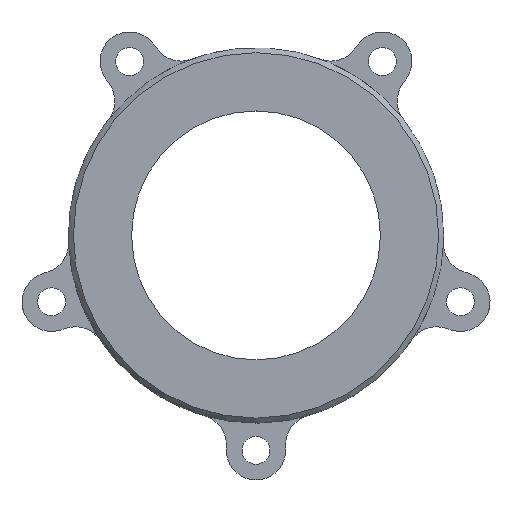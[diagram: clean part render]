
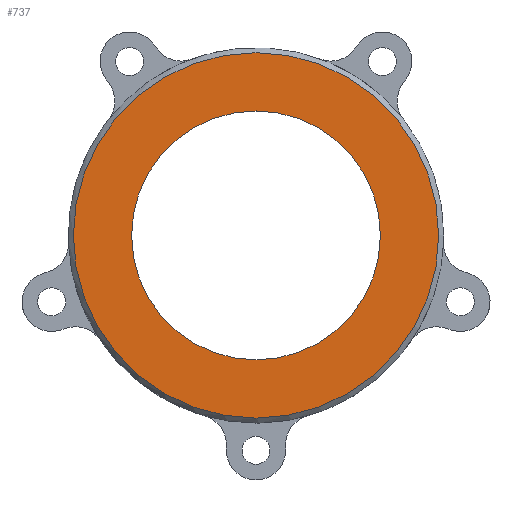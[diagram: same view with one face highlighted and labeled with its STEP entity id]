
A CAD part, top view. The second image highlights one B-rep face of the part: STEP entity #737.
In plain terms, the highlighted planar face has unit normal (0, 0, 1).
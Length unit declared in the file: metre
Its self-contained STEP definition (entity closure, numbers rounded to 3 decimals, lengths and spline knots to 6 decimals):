
#15=PLANE('',#827);
#194=ORIENTED_EDGE('',*,*,#398,.T.);
#195=ORIENTED_EDGE('',*,*,#397,.F.);
#397=EDGE_CURVE('',#498,#498,#559,.T.);
#398=EDGE_CURVE('',#499,#499,#560,.T.);
#498=VERTEX_POINT('',#1243);
#499=VERTEX_POINT('',#1246);
#559=CIRCLE('',#826,0.020001);
#560=CIRCLE('',#828,0.029369);
#596=EDGE_LOOP('',(#194));
#597=EDGE_LOOP('',(#195));
#660=FACE_BOUND('',#596,.T.);
#661=FACE_BOUND('',#597,.T.);
#737=ADVANCED_FACE('',(#660,#661),#15,.T.);
#826=AXIS2_PLACEMENT_3D('',#1242,#985,#986);
#827=AXIS2_PLACEMENT_3D('',#1244,#987,#988);
#828=AXIS2_PLACEMENT_3D('',#1245,#989,#990);
#985=DIRECTION('',(0.,0.,1.));
#986=DIRECTION('',(1.,0.,0.));
#987=DIRECTION('',(0.,0.,1.));
#988=DIRECTION('',(1.,0.,0.));
#989=DIRECTION('',(0.,0.,1.));
#990=DIRECTION('',(1.,0.,0.));
#1242=CARTESIAN_POINT('',(0.,0.,0.058816));
#1243=CARTESIAN_POINT('',(0.020001,0.,0.058816));
#1244=CARTESIAN_POINT('',(0.,0.,0.058816));
#1245=CARTESIAN_POINT('',(0.,0.,0.058816));
#1246=CARTESIAN_POINT('',(0.029369,0.,0.058816));
